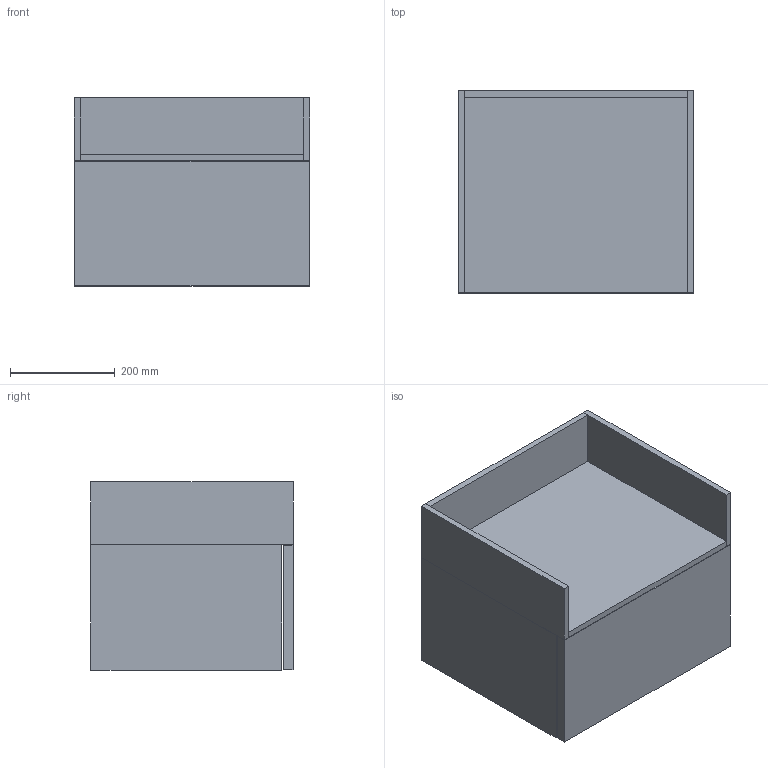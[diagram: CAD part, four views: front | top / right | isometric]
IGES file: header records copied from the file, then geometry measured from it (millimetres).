
Start section: Data from Parasolid IGES Translator 19.0.9, Copyright(c) 2006 Siemens PL M Software. All Rights Reserved.
Global section: file name: noorth-SI-H 36 D 38,8 W 45_8338.igs; native system: By Siemens PLM Incorporated; preprocessor: XPlus GENERIC/IGES 19.0.9; author: Noname; organization: Noname; date: 20200601.092135; units: metre
Bounding box: 450.01 x 386 x 360 mm (x, y, z)
Volume: 13577340.7 mm3; surface area: 2126474.3 mm2
Topology: 10 solids, 10 shells, 60 faces, 120 edges, 80 vertices
Faces by surface type: plane 60
